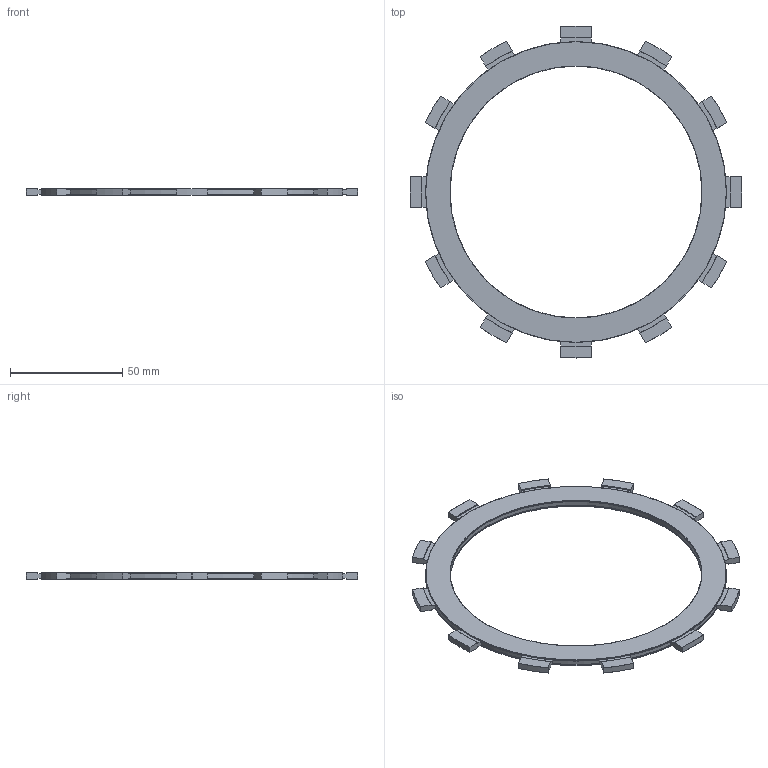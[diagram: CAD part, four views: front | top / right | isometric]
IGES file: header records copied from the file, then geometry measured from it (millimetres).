
Start section: SolidWorks IGES file using analytic representation for surfaces
Bounding box: 147.85 x 147.85 x 3 mm (x, y, z)
Surface area: 30493.4 mm2 (no closed solid volume)
Topology: 0 solids, 0 shells, 115 faces, 1412 edges, 1412 vertices
Faces by surface type: revolution 61, bspline 54
